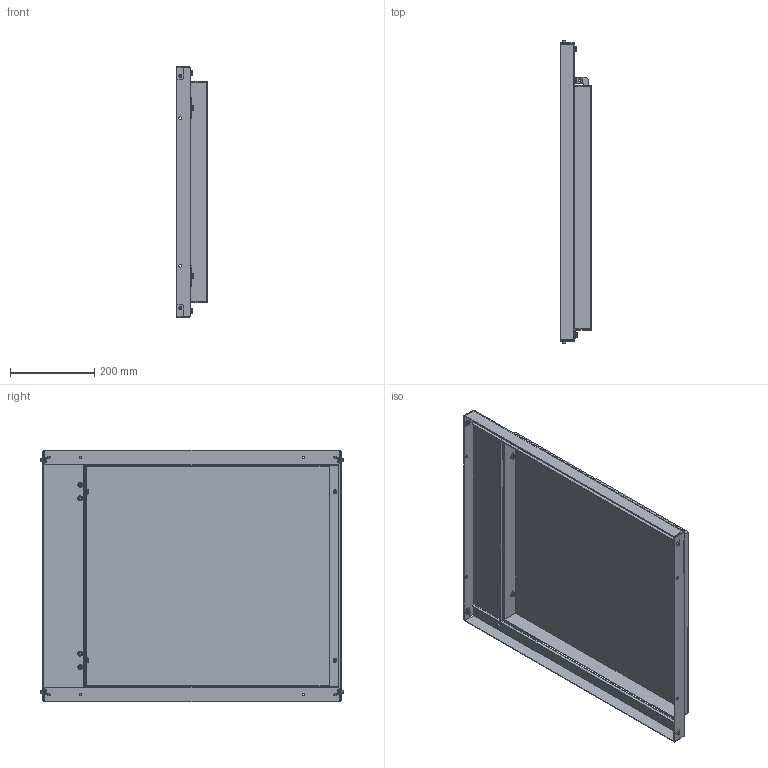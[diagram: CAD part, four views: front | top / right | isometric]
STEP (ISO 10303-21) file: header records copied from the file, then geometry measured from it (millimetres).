
FILE_DESCRIPTION (( 'STEP AP214' ), '1' );
FILE_NAME ('FO-00-MPR-060-080 Ïàíåëü ìîíòàæíàÿ ïîâîðîòíàÿ 600õ800 ìì.STEP', '2025-08-20T07:30:42', ( '' ), ( '' ), 'SwSTEP 2.0', 'SolidWorks 2023', '' );
FILE_SCHEMA (( 'AUTOMOTIVE_DESIGN' ));
Length unit declared in the file: millimetre
Products named in the file (3): FO-00-MPR-060-080 Панель монтажная поворотная 600х800 мм; Панель монтажная поворотная 600х800 мм; Панель монтажная 600х800 мм
Assembly tree (2 placements, depth 2):
  FO-00-MPR-060-080 Панель монтажная поворотная 600х800 мм
    Панель монтажная 600х800 мм
    Панель монтажная поворотная 600х800 мм
Bounding box: 73 x 718.4 x 596 mm (x, y, z)
Volume: 1208895.4 mm3; surface area: 1260168.9 mm2
Topology: 2 solids, 18 shells, 896 faces, 2242 edges, 1448 vertices
Faces by surface type: cylinder 458, plane 290, cone 76, torus 72
Entity records: 27634 total; most frequent: DIRECTION 5176, CARTESIAN_POINT 4939, ORIENTED_EDGE 4484, EDGE_CURVE 2242, AXIS2_PLACEMENT_3D 2049, VERTEX_POINT 1448, CIRCLE 1148, LINE 1078
